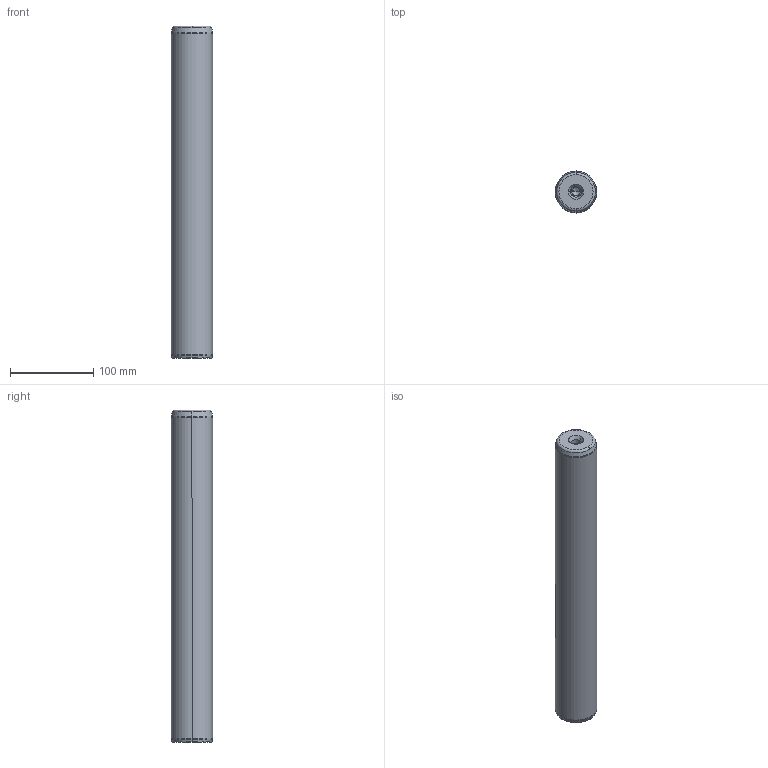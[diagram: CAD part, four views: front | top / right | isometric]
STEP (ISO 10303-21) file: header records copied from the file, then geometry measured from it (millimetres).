
FILE_DESCRIPTION((''),'2;1');
FILE_NAME('P10_050_400.stp','2008-12-23T16:14:55',(''),(''),'Mechanical Desktop 2009','Mechanical Desktop 2009',', , ');
FILE_SCHEMA(('CONFIG_CONTROL_DESIGN'));
Length unit declared in the file: millimetre
Products named in the file (5): Product; ProductAA; blmdl1; ProductA; blmdl1A
Assembly tree (2 placements, depth 3):
  Product
    ProductAA
      blmdl1
  ProductA
  blmdl1A
Bounding box: 50 x 50 x 400 mm (x, y, z)
Volume: 779760.8 mm3; surface area: 67395 mm2
Topology: 1 solids, 1 shells, 26 faces, 66 edges, 41 vertices
Faces by surface type: cone 10, torus 8, cylinder 6, plane 2
Entity records: 1012 total; most frequent: DIRECTION 170, CARTESIAN_POINT 134, ORIENTED_EDGE 128, AXIS2_PLACEMENT_3D 77, EDGE_CURVE 64, CIRCLE 48, VERTEX_POINT 41, EDGE_LOOP 27
